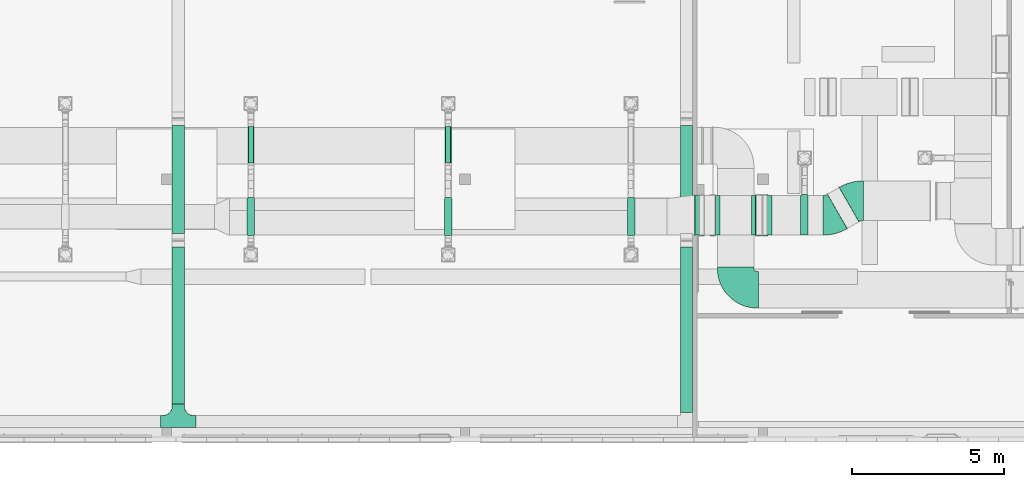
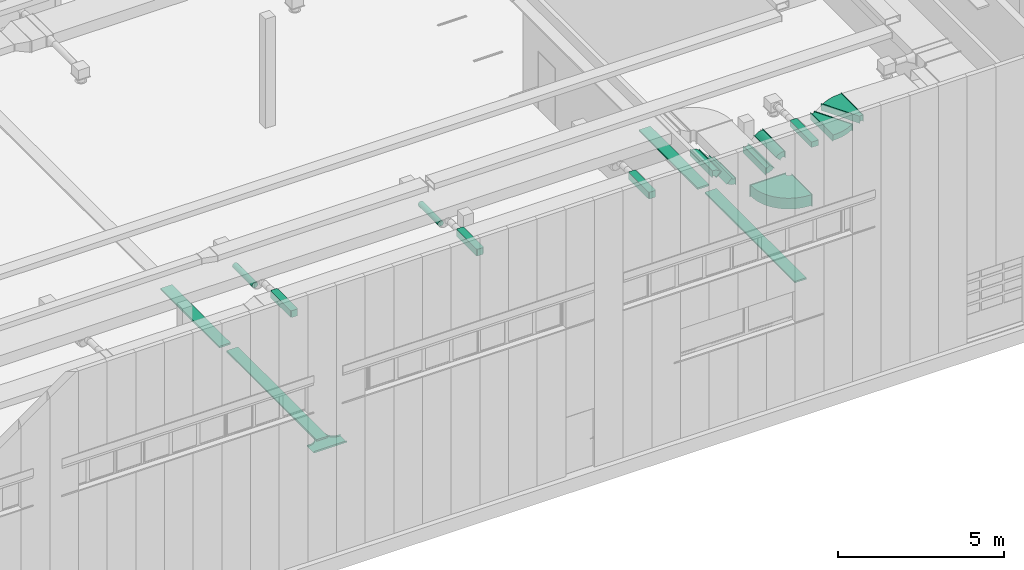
# One storey, part 255 of 302: 12 flow fittings, 6 flow segments.
"""IFC2X3 building model written with IfcOpenShell, lengths in metres."""

from ifc_helpers import new_model, entity, si_unit, converted_unit, derived_unit, direction, frame, frame_2d, origin, origin_2d_with_axis, place, context, subcontext, project, spatial, polyline, circle_curve, parameter, trimmed, segment, composite_curve, rectangle, circle, outline, extrude, faceted_brep, source, transform, mapped, material, material_list, type_object, type_shapes, element, save


model = new_model("IFC2X3")

# Units and contexts
model_context = context("Model", 3, precision=1e-05, world=origin(), true_north=direction((6.12303176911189e-17, 1.0)))
body_context = subcontext(model_context, "Body", "Model", "MODEL_VIEW")
ifc_project = project(units=[si_unit("LENGTHUNIT", "METRE"), si_unit("AREAUNIT", "SQUARE_METRE"), si_unit("VOLUMEUNIT", "CUBIC_METRE"), converted_unit("PLANEANGLEUNIT", "DEGREE", entity("IfcRatioMeasure", 0.0174532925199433), si_unit("PLANEANGLEUNIT", "RADIAN"), dimensions=[0, 0, 0, 0, 0, 0, 0]), si_unit("MASSUNIT", "GRAM", prefix="KILO"), derived_unit("MASSDENSITYUNIT", [(si_unit("MASSUNIT", "GRAM", prefix="KILO"), 1), (si_unit("LENGTHUNIT", "METRE"), -3)]), derived_unit("MOMENTOFINERTIAUNIT", [(si_unit("LENGTHUNIT", "METRE"), 4)]), si_unit("TIMEUNIT", "SECOND"), si_unit("FREQUENCYUNIT", "HERTZ"), si_unit("THERMODYNAMICTEMPERATUREUNIT", "DEGREE_CELSIUS"), derived_unit("THERMALTRANSMITTANCEUNIT", [(si_unit("MASSUNIT", "GRAM", prefix="KILO"), 1), (si_unit("THERMODYNAMICTEMPERATUREUNIT", "KELVIN"), -1), (si_unit("TIMEUNIT", "SECOND"), -3)]), derived_unit("VOLUMETRICFLOWRATEUNIT", [(si_unit("LENGTHUNIT", "METRE"), 3), (si_unit("TIMEUNIT", "SECOND"), -1)]), si_unit("ELECTRICCURRENTUNIT", "AMPERE"), si_unit("ELECTRICVOLTAGEUNIT", "VOLT"), si_unit("POWERUNIT", "WATT"), si_unit("FORCEUNIT", "NEWTON", prefix="KILO"), si_unit("ILLUMINANCEUNIT", "LUX"), si_unit("LUMINOUSFLUXUNIT", "LUMEN"), si_unit("LUMINOUSINTENSITYUNIT", "CANDELA"), derived_unit("USERDEFINED", [(si_unit("MASSUNIT", "GRAM", prefix="KILO"), -1), (si_unit("LENGTHUNIT", "METRE"), -2), (si_unit("TIMEUNIT", "SECOND"), 3), (si_unit("LUMINOUSFLUXUNIT", "LUMEN"), 1)]), derived_unit("LINEARVELOCITYUNIT", [(si_unit("LENGTHUNIT", "METRE"), 1), (si_unit("TIMEUNIT", "SECOND"), -1)]), si_unit("PRESSUREUNIT", "PASCAL"), derived_unit("USERDEFINED", [(si_unit("LENGTHUNIT", "METRE"), -2), (si_unit("MASSUNIT", "GRAM", prefix="KILO"), 1), (si_unit("TIMEUNIT", "SECOND"), -2)]), derived_unit("LINEARFORCEUNIT", [(si_unit("MASSUNIT", "GRAM", prefix="KILO"), 1), (si_unit("LENGTHUNIT", "METRE"), 1), (si_unit("TIMEUNIT", "SECOND"), -2), (si_unit("LENGTHUNIT", "METRE"), -1)]), derived_unit("PLANARFORCEUNIT", [(si_unit("MASSUNIT", "GRAM", prefix="KILO"), 1), (si_unit("LENGTHUNIT", "METRE"), 1), (si_unit("TIMEUNIT", "SECOND"), -2), (si_unit("LENGTHUNIT", "METRE"), -2)])], contexts=[model_context])

# Site, building, storey
site_placement = place(None, origin())
site = spatial("IfcSite", under=ifc_project, at=site_placement, Name="Default", CompositionType="ELEMENT")
building_placement = place(site_placement, origin())
building = spatial("IfcBuilding", under=site, at=building_placement, CompositionType="ELEMENT")
storey_placement = place(building_placement, frame((0.0, 0.0, -1.3)))
storey = spatial("IfcBuildingStorey", under=building, at=storey_placement, Name="00_EG", CompositionType="ELEMENT", Elevation=-1.3)

# Flow segments
cable_carrier_segment_type = type_object("IfcCableCarrierSegmentType", Name="Kabeltrasse mit Formteilen:Channel Cable Tray", PredefinedType="CABLETRAYSEGMENT")
flow_segment_1_placement = place(storey_placement, origin())
element("IfcFlowSegment", 1, at=flow_segment_1_placement, inside=storey, type_object=cable_carrier_segment_type, Name="Kabeltrasse mit Formteilen:Channel Cable Tray", ObjectType="Kabeltrasse mit Formteilen:Channel Cable Tray", context=body_context, shape_type="SweptSolid", body=[
    extrude(rectangle(XDim=5.43117419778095, YDim=0.399999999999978, at=frame_2d((-1.11022302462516e-15, -3.46389583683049e-14), x_axis=(1.0, 0.0))), frame((-220.085111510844, 18.513676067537, 4.82000000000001), z_axis=(0.0, 0.0, 1.0), x_axis=(0.0, -1.0, 0.0)), (0.0, 0.0, 1.0), 0.0600000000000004),
])
flow_segment_2_placement = place(storey_placement, origin())
element("IfcFlowSegment", 2, at=flow_segment_2_placement, inside=storey, type_object=cable_carrier_segment_type, Name="Kabeltrasse mit Formteilen:Channel Cable Tray", ObjectType="Kabeltrasse mit Formteilen:Channel Cable Tray", context=body_context, shape_type="SweptSolid", body=[
    extrude(rectangle(XDim=3.54586893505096, YDim=0.399999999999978, at=frame_2d((-2.1094237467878e-15, 1.73194791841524e-14), x_axis=(1.0, 0.0))), frame((-220.085111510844, 23.4441786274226, 4.69999999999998), z_axis=(0.0, 0.0, 1.0), x_axis=(0.0, 1.0, 0.0)), (0.0, 0.0, 1.0), 0.0599999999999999),
])
flow_segment_3_placement = place(storey_placement, origin())
element("IfcFlowSegment", 3, at=flow_segment_3_placement, inside=storey, type_object=cable_carrier_segment_type, Name="Kabeltrasse mit Formteilen:Channel Cable Tray", ObjectType="Kabeltrasse mit Formteilen:Channel Cable Tray", context=body_context, shape_type="SweptSolid", body=[
    extrude(rectangle(XDim=5.43117419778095, YDim=0.399999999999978, at=frame_2d((-1.11022302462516e-15, 0.0), x_axis=(1.0, 0.0))), frame((-236.772611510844, 18.513676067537, 4.82000000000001), z_axis=(0.0, 0.0, 1.0), x_axis=(0.0, -1.0, 0.0)), (0.0, 0.0, 1.0), 0.0600000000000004),
])
flow_segment_4_placement = place(storey_placement, origin())
element("IfcFlowSegment", 4, at=flow_segment_4_placement, inside=storey, type_object=cable_carrier_segment_type, Name="Kabeltrasse mit Formteilen:Channel Cable Tray", ObjectType="Kabeltrasse mit Formteilen:Channel Cable Tray", context=body_context, shape_type="SweptSolid", body=[
    extrude(rectangle(XDim=3.54586893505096, YDim=0.399999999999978, at=frame_2d((-2.1094237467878e-15, -1.73194791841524e-14), x_axis=(1.0, 0.0))), frame((-236.772611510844, 23.4441786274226, 4.69999999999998), z_axis=(0.0, 0.0, 1.0), x_axis=(0.0, 1.0, 0.0)), (0.0, 0.0, 1.0), 0.0599999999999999),
])

# Flow fittings
ifc_material = material(Name="<Unnamed>")
cable_carrier_fitting_type = type_object("IfcCableCarrierFittingType", Name="Kabeltrasse - T-Stück mit Radius:300 mm Radius", PredefinedType="NOTDEFINED", material=ifc_material)
shared_shape_1 = source(origin(), body_context, "Body", "Brep", [
    faceted_brep([(0.38422295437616, -0.220489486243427, 0.0299999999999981), (0.3319177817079, -0.248447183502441, 0.0299999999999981), (0.286071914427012, -0.286071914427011, 0.0299999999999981), (0.248447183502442, -0.331917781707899, 0.0299999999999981), (0.220489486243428, -0.384222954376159, 0.0299999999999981), (0.203273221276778, -0.440977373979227, 0.0299999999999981), (0.197460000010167, -0.500000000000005, 0.0299999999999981), (0.197460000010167, -0.580000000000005, 0.0299999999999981), (0.200000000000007, -0.580000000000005, 0.0299999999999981), (0.200000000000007, -0.500000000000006, 0.0299999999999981), (0.205764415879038, -0.441472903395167, 0.0299999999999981), (0.222836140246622, -0.385194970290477, 0.0299999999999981), (0.250559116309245, -0.333328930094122, 0.0299999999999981), (0.287867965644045, -0.287867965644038, 0.0299999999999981), (0.33332893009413, -0.250559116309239, 0.0299999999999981), (0.385194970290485, -0.222836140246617, 0.0299999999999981), (0.441472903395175, -0.205764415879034, 0.0299999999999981), (0.50000000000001, -0.200000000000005, 0.0299999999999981), (0.580000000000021, -0.200000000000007, 0.0299999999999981), (0.580000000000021, -0.197460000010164, 0.0299999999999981), (0.500000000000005, -0.197460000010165, 0.0299999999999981), (0.440977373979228, -0.203273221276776, 0.0299999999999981), (-0.49999999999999, -0.197460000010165, 0.0299999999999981), (-0.579999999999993, -0.197460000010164, 0.0299999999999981), (-0.579999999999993, -0.200000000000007, 0.0299999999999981), (-0.500000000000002, -0.200000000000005, 0.0299999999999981), (-0.441472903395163, -0.205764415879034, 0.0299999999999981), (-0.385194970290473, -0.222836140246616, 0.0299999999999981), (-0.333328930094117, -0.250559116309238, 0.0299999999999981), (-0.287867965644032, -0.287867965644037, 0.0299999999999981), (-0.250559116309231, -0.333328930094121, 0.0299999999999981), (-0.222836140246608, -0.385194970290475, 0.0299999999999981), (-0.205764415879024, -0.441472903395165, 0.0299999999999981), (-0.199999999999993, -0.500000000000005, 0.0299999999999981), (-0.199999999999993, -0.580000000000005, 0.0299999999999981), (-0.197460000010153, -0.580000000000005, 0.0299999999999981), (-0.197460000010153, -0.500000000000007, 0.0299999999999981), (-0.203273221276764, -0.440977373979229, 0.0299999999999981), (-0.220489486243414, -0.384222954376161, 0.0299999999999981), (-0.248447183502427, -0.331917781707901, 0.0299999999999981), (-0.286071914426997, -0.286071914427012, 0.0299999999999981), (-0.331917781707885, -0.248447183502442, 0.0299999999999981), (-0.384222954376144, -0.220489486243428, 0.0299999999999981), (-0.440977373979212, -0.203273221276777, 0.0299999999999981), (0.580000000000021, 0.199999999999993, 0.0299999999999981), (-0.579999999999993, 0.199999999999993, 0.0299999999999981), (-0.579999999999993, 0.197460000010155, 0.0299999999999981), (0.580000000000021, 0.197460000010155, 0.0299999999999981), (-0.199999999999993, -0.500000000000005, -0.0300000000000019), (-0.205764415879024, -0.441472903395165, -0.0300000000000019), (-0.222836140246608, -0.385194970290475, -0.0300000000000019), (-0.250559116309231, -0.333328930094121, -0.0300000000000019), (-0.287867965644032, -0.287867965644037, -0.0300000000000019), (-0.333328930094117, -0.250559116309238, -0.0300000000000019), (-0.385194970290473, -0.222836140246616, -0.0300000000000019), (-0.441472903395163, -0.205764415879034, -0.0300000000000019), (-0.499999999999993, -0.200000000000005, -0.0300000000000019), (-0.579999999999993, -0.200000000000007, -0.0300000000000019), (-0.579999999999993, 0.199999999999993, -0.0300000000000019), (0.580000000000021, 0.199999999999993, -0.0300000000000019), (0.580000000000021, -0.200000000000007, -0.0300000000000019), (0.500000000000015, -0.200000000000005, -0.0300000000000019), (0.441472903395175, -0.205764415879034, -0.0300000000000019), (0.385194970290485, -0.222836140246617, -0.0300000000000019), (0.33332893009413, -0.250559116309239, -0.0300000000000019), (0.287867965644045, -0.287867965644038, -0.0300000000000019), (0.250559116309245, -0.333328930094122, -0.0300000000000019), (0.222836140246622, -0.385194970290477, -0.0300000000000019), (0.205764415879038, -0.441472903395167, -0.0300000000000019), (0.200000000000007, -0.500000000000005, -0.0300000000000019), (0.200000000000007, -0.580000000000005, -0.0300000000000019), (-0.199999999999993, -0.580000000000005, -0.0300000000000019), (-0.199999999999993, -0.500000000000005, -0.0274600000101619), (0.197460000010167, -0.580000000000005, -0.0274600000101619), (-0.197460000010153, -0.580000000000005, -0.0274600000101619), (-0.197460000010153, -0.500000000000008, -0.0274600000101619), (-0.203273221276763, -0.440977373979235, -0.0274600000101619), (-0.220489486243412, -0.384222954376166, -0.0274600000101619), (-0.248447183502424, -0.331917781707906, -0.0274600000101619), (-0.286071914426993, -0.286071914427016, -0.0274600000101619), (-0.33191778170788, -0.248447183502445, -0.0274600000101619), (-0.384222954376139, -0.22048948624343, -0.0274600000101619), (-0.440977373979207, -0.203273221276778, -0.0274600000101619), (-0.499999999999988, -0.197460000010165, -0.0274600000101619), (-0.579999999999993, -0.197460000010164, -0.0274600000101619), (0.580000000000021, -0.197460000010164, -0.0274600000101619), (0.500000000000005, -0.197460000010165, -0.0274600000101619), (-0.579999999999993, 0.197460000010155, -0.0274600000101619), (-0.500000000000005, -0.200000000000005, -0.0274600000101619), (0.500000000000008, -0.200000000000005, -0.0274600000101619), (0.200000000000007, -0.500000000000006, -0.0274600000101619), (0.580000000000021, 0.197460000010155, -0.0274600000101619), (0.440977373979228, -0.203273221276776, -0.0274600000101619), (0.38422295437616, -0.220489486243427, -0.0274600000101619), (0.3319177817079, -0.248447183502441, -0.0274600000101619), (0.286071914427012, -0.286071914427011, -0.0274600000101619), (0.248447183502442, -0.331917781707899, -0.0274600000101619), (0.220489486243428, -0.384222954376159, -0.0274600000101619), (0.203273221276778, -0.440977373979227, -0.0274600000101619), (0.197460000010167, -0.500000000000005, -0.0274600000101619)], [[[0, 1, 2, 3, 4, 5, 6, 7, 8, 9, 10, 11, 12, 13, 14, 15, 16, 17, 18, 19, 20, 21]], [[22, 23, 24, 25, 26, 27, 28, 29, 30, 31, 32, 33, 34, 35, 36, 37, 38, 39, 40, 41, 42, 43]], [[44, 45, 46, 47]], [[48, 49, 50, 51, 52, 53, 54, 55, 56, 57, 58, 59, 60, 61, 62, 63, 64, 65, 66, 67, 68, 69, 70, 71]], [[34, 33, 72, 48, 71]], [[35, 34, 71, 70, 8, 7, 73, 74]], [[36, 35, 74, 75]], [[37, 36, 75, 76]], [[76, 77, 38, 37]], [[78, 39, 38, 77]], [[39, 78, 79, 40]], [[41, 80, 81, 42]], [[42, 81, 82, 43]], [[43, 82, 83, 22]], [[79, 80, 41, 40]], [[23, 22, 83, 84]], [[20, 19, 85, 86]], [[46, 45, 58, 57, 24, 23, 84, 87]], [[25, 24, 57, 56, 88]], [[18, 17, 89, 61, 60]], [[26, 25, 88, 56, 55]], [[27, 54, 53, 28]], [[26, 55, 54, 27]], [[28, 53, 52, 29]], [[31, 30, 51, 50]], [[72, 33, 32, 49, 48]], [[49, 32, 31, 50]], [[51, 30, 29, 52]], [[10, 9, 90, 69, 68]], [[11, 10, 68, 67]], [[12, 11, 67, 66]], [[13, 12, 66, 65]], [[14, 13, 65, 64]], [[16, 15, 63, 62]], [[14, 64, 63, 15]], [[16, 62, 61, 89, 17]], [[19, 18, 60, 59, 44, 47, 91, 85]], [[21, 20, 86, 92]], [[92, 93, 0, 21]], [[94, 1, 0, 93]], [[95, 2, 1, 94]], [[3, 96, 97, 4]], [[4, 97, 98, 5]], [[5, 98, 99, 6]], [[95, 96, 3, 2]], [[7, 6, 99, 73]], [[9, 8, 70, 69, 90]], [[45, 44, 59, 58]], [[47, 46, 87, 91]], [[87, 84, 83, 82, 81, 80, 79, 78, 77, 76, 75, 74, 73, 99, 98, 97, 96, 95, 94, 93, 92, 86, 85, 91]]]),
])
type_shapes(cable_carrier_fitting_type, [shared_shape_1])
flow_fitting_1_placement = place(storey_placement, frame((-236.772611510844, 15.4980889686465, 4.85), z_axis=(0.0, 0.0, 1.0), x_axis=(-1.0, 0.0, 0.0)))
element("IfcFlowFitting", 5, at=flow_fitting_1_placement, inside=storey, type_object=cable_carrier_fitting_type, material=ifc_material, Name="Kabeltrasse - T-Stück mit Radius:300 mm Radius", ObjectType="Kabeltrasse - T-Stück mit Radius:300 mm Radius", context=body_context, shape_type="MappedRepresentation", body=[
    mapped(shared_shape_1, transform((0.0, 0.0, 0.0), scale=1.0)),
])
ifc_material_list_1 = material_list([ifc_material, ifc_material, ifc_material, ifc_material, ifc_material])
ifc_material_list_2 = material_list([ifc_material, ifc_material, ifc_material, ifc_material, ifc_material])
duct_fitting_type_1 = type_object("IfcDuctFittingType", Name="Bogen rechteck BS:Standard", PredefinedType="NOTDEFINED", material=ifc_material_list_2)
shared_shape_2 = source(origin(), body_context, "Body", "SweptSolid", [
    extrude(rectangle(XDim=0.0549999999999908, YDim=0.2, at=frame_2d((-2.94902990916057e-17, 0.0), x_axis=(1.0, 0.0))), frame((0.0780240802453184, 0.0780240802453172, -0.65), z_axis=(0.0, 0.0, 1.0), x_axis=(0.707106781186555, 0.70710678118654, 0.0)), (0.0, 0.0, 1.0), 1.3),
    extrude(rectangle(XDim=0.199999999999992, YDim=0.0549999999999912, at=frame_2d((1.97758476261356e-15, 1.4883927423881e-15), x_axis=(1.0, 0.0))), frame((-0.110342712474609, 0.0, -0.65), z_axis=(0.0, 0.0, 1.0), x_axis=(0.0, -1.0, 0.0)), (0.0, 0.0, 1.0), 1.3),
    extrude(outline(composite_curve([segment(polyline([(-0.129289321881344, -0.0707106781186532), (0.0707106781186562, -0.0707106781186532)]), True, "CONTINUOUS"), segment(trimmed(circle_curve(frame_2d((0.170710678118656, -0.0707106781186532), x_axis=(-0.707106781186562, 0.707106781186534)), 0.1), [parameter(0.0)], [parameter(44.9999999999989)], True, "PARAMETER"), False, "CONTINUOUS"), segment(polyline([(0.1, 0.0), (-0.0414213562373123, 0.141421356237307)]), True, "CONTINUOUS"), segment(trimmed(circle_curve(frame_2d((0.170710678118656, -0.0707106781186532), x_axis=(-0.707106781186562, 0.707106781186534)), 0.3), [parameter(0.0)], [parameter(44.9999999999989)], True, "PARAMETER"), True, "CONTINUOUS")], self_intersect=False)), frame((-0.0121320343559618, 0.029289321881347, -0.65), z_axis=(0.0, 0.0, 1.0), x_axis=(-0.707106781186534, 0.707106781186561, 0.0)), (0.0, 0.0, 1.0), 1.3),
    extrude(rectangle(XDim=0.00500000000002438, YDim=0.26, at=frame_2d((1.94570921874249e-15, 0.0), x_axis=(1.0, 0.0))), frame((-0.135342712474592, 0.0, -0.68)), (0.0, 0.0, 1.0), 1.36),
    extrude(rectangle(XDim=0.00500000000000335, YDim=0.26, at=frame_2d((4.33680868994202e-18, -4.16333634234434e-17), x_axis=(1.0, 0.0))), frame((0.0957017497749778, 0.0957017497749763, -0.68), z_axis=(0.0, 0.0, 1.0), x_axis=(0.707106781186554, 0.707106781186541, 0.0)), (0.0, 0.0, 1.0), 1.36),
])
type_shapes(duct_fitting_type_1, [shared_shape_2])
flow_fitting_2_placement = place(storey_placement, frame((-219.681985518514, 22.2723454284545, 5.15), z_axis=(0.0, -1.0, 0.0), x_axis=(-0.707106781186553, 0.0, 0.707106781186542)))
element("IfcFlowFitting", 6, at=flow_fitting_2_placement, inside=storey, type_object=duct_fitting_type_1, material=ifc_material_list_1, Name="Bogen rechteck BS:Standard", ObjectType="Bogen rechteck BS:Standard", context=body_context, shape_type="MappedRepresentation", body=[
    mapped(shared_shape_2, transform((0.0, 0.0, 0.0), scale=1.0)),
])
for number, where, z_axis, x_axis, name in (
    (7, (-219.126985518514, 22.2723454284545, 4.59500000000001), (0.0, -1.0, 0.0), (0.707106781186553, 0.0, -0.707106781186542), "Bogen rechteck BS:Standard"),
    (8, (-217.818362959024, 22.2723454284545, 4.595), (0.0, -1.0, 0.0), (1.0, 0.0, 0.0), "Bogen rechteck BS:Standard"),
    (9, (-217.413362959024, 22.2723454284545, 5.0), (0.0, 1.0, 0.0), (0.707106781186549, 0.0, 0.707106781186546), "Bogen rechteck BS:Standard"),
):
    element("IfcFlowFitting", number, at=place(storey_placement, frame(where, z_axis=z_axis, x_axis=x_axis)), inside=storey, type_object=duct_fitting_type_1, material=ifc_material, Name=name, ObjectType="Bogen rechteck BS:Standard", context=body_context, shape_type="MappedRepresentation", body=[
        mapped(shared_shape_2, transform((0.0, 0.0, 0.0), scale=1.0)),
    ])
ifc_material_list_3 = material_list([ifc_material, ifc_material, ifc_material, ifc_material, ifc_material])
ifc_material_list_4 = material_list([ifc_material, ifc_material, ifc_material, ifc_material, ifc_material])
duct_fitting_type_2 = type_object("IfcDuctFittingType", Name="Bogen rechteck BS:Standard", PredefinedType="NOTDEFINED", material=ifc_material_list_4)
shared_shape_3 = source(origin(), body_context, "Body", "SweptSolid", [
    extrude(rectangle(XDim=0.0549999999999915, YDim=1.3, at=frame_2d((5.03069808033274e-17, 0.0), x_axis=(1.0, 0.0))), frame((0.197073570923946, 0.112908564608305, -0.1), z_axis=(0.0, 0.0, 1.0), x_axis=(0.867682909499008, 0.497118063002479, 0.0)), (0.0, 0.0, 1.0), 0.2),
    extrude(rectangle(XDim=1.29999999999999, YDim=0.0549999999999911, at=frame_2d((3.60822483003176e-15, 9.6936347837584e-15), x_axis=(1.0, 0.0))), frame((-0.227126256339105, 0.0, -0.1), z_axis=(0.0, 0.0, 1.0), x_axis=(0.0, -1.0, 0.0)), (0.0, 0.0, 1.0), 0.2),
    extrude(outline(composite_curve([segment(polyline([(-0.699618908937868, -0.186419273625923), (0.600381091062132, -0.186419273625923)]), True, "CONTINUOUS"), segment(trimmed(circle_curve(frame_2d((0.700381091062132, -0.186419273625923), x_axis=(-0.867682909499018, 0.497118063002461)), 0.1), [parameter(0.0)], [parameter(29.8095150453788)], True, "PARAMETER"), False, "CONTINUOUS"), segment(polyline([(0.61361280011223, -0.136707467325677), (-0.514374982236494, 0.509546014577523)]), True, "CONTINUOUS"), segment(trimmed(circle_curve(frame_2d((0.700381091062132, -0.186419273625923), x_axis=(-0.867682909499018, 0.497118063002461)), 1.4), [parameter(0.0)], [parameter(29.8095150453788)], True, "PARAMETER"), True, "CONTINUOUS")], self_intersect=False)), frame((-0.0132069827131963, 0.0496189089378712, -0.1), z_axis=(0.0, 0.0, 1.0), x_axis=(-0.497118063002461, 0.867682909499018, 0.0)), (0.0, 0.0, 1.0), 0.2),
    extrude(rectangle(XDim=0.00500000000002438, YDim=1.36, at=frame_2d((1.013490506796e-14, 0.0), x_axis=(1.0, 0.0))), frame((-0.252126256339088, 0.0, -0.13)), (0.0, 0.0, 1.0), 0.26),
    extrude(rectangle(XDim=0.00500000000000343, YDim=1.36, at=frame_2d((1.69135538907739e-17, 0.0), x_axis=(1.0, 0.0))), frame((0.218765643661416, 0.125336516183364, -0.13), z_axis=(0.0, 0.0, 1.0), x_axis=(0.867682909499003, 0.497118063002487, 0.0)), (0.0, 0.0, 1.0), 0.26),
])
type_shapes(duct_fitting_type_2, [shared_shape_3])
flow_fitting_3_placement = place(storey_placement, frame((-214.531873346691, 22.7424213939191, 5.0), z_axis=(0.0, 0.0, 1.0), x_axis=(-1.0, 0.0, 0.0)))
element("IfcFlowFitting", 10, at=flow_fitting_3_placement, inside=storey, type_object=duct_fitting_type_2, material=ifc_material_list_3, Name="Bogen rechteck BS:Standard", ObjectType="Bogen rechteck BS:Standard", context=body_context, shape_type="MappedRepresentation", body=[
    mapped(shared_shape_3, transform((0.0, 0.0, 0.0), scale=1.0)),
])
flow_fitting_4_placement = place(storey_placement, frame((-215.352356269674, 22.2723454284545, 5.0)))
element("IfcFlowFitting", 11, at=flow_fitting_4_placement, inside=storey, type_object=duct_fitting_type_2, material=ifc_material, Name="Bogen rechteck BS:Standard", ObjectType="Bogen rechteck BS:Standard", context=body_context, shape_type="MappedRepresentation", body=[
    mapped(shared_shape_3, transform((0.0, 0.0, 0.0), scale=1.0)),
])

# Flow segments
duct_segment_type = type_object("IfcDuctSegmentType", Name="Rund:STR_Segment_RND_GS_EA", PredefinedType="NOTDEFINED")
flow_segment_5_placement = place(storey_placement, origin())
element("IfcFlowSegment", 12, at=flow_segment_5_placement, inside=storey, type_object=duct_segment_type, Name="Rund:STR_Segment_RND_GS_EA", ObjectType="Rund:STR_Segment_RND_GS_EA", context=body_context, shape_type="SweptSolid", body=[
    extrude(circle(Radius=0.1, at=origin_2d_with_axis()), frame((-227.909394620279, 23.984658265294, 4.71999999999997), z_axis=(0.0, 1.0, 0.0), x_axis=(-1.0, 0.0, 0.0)), (0.0, 0.0, 1.0), 1.20262234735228),
])
flow_segment_6_placement = place(storey_placement, origin())
element("IfcFlowSegment", 13, at=flow_segment_6_placement, inside=storey, type_object=duct_segment_type, Name="Rund:STR_Segment_RND_GS_EA", ObjectType="Rund:STR_Segment_RND_GS_EA", context=body_context, shape_type="SweptSolid", body=[
    extrude(circle(Radius=0.1, at=origin_2d_with_axis()), frame((-234.389904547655, 23.984658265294, 4.71999999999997), z_axis=(0.0, 1.0, 0.0), x_axis=(-1.0, 0.0, 0.0)), (0.0, 0.0, 1.0), 1.20262234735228),
])

# Flow fittings
duct_fitting_type_3 = type_object("IfcDuctFittingType", Name="STR_RCT_Tee:STR_Tee_RCT_GS_RA", PredefinedType="NOTDEFINED", material=ifc_material)
shared_shape_4 = source(origin(), body_context, "Body", "SweptSolid", [
    extrude(outline(polyline([(-0.125, 0.318750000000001), (-0.125, -0.98125), (0.125000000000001, -0.98125), (0.125000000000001, 0.318750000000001), (0.0999999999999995, 0.318750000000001), (0.0999999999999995, 0.343749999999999), (-0.100000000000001, 0.343749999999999), (-0.100000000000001, 0.318750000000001), (-0.125, 0.318750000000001)])), frame((0.0, -0.331250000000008, -0.100000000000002), z_axis=(0.0, 0.0, -1.0), x_axis=(1.0, 0.0, 0.0)), (0.0, 0.0, -1.0), 0.2),
])
type_shapes(duct_fitting_type_3, [shared_shape_4])
flow_fitting_5_placement = place(storey_placement, frame((-216.214864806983, 22.2723454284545, 5.0), z_axis=(0.0, 0.0, 1.0), x_axis=(-1.0, 0.0, 0.0)))
element("IfcFlowFitting", 14, at=flow_fitting_5_placement, inside=storey, type_object=duct_fitting_type_3, material=ifc_material, Name="STR_RCT_Tee:STR_Tee_RCT_GS_RA", ObjectType="STR_RCT_Tee:STR_Tee_RCT_GS_RA", context=body_context, shape_type="MappedRepresentation", body=[
    mapped(shared_shape_4, transform((0.0, 0.0, 0.0), scale=1.0)),
])
duct_fitting_type_4 = type_object("IfcDuctFittingType", Name="STR_RCT_Cross:STR_Cross_RCT_GS_RA", PredefinedType="NOTDEFINED", material=ifc_material)
shared_shape_5 = source(origin(), body_context, "Body", "SweptSolid", [
    extrude(outline(polyline([(-0.624999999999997, 0.0999999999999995), (-0.624999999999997, -0.1), (-0.600000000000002, -0.1), (-0.600000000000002, -0.124999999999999), (0.599999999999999, -0.124999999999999), (0.599999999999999, -0.1), (0.625000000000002, -0.1), (0.625000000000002, 0.0999999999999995), (0.599999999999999, 0.0999999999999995), (0.599999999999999, 0.125000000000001), (-0.600000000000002, 0.125000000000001), (-0.600000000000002, 0.0999999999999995), (-0.624999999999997, 0.0999999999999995)])), frame((0.0, 0.0, -0.125000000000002), z_axis=(0.0, 0.0, -1.0), x_axis=(0.0, 1.0, 0.0)), (0.0, 0.0, -1.0), 0.25),
])
type_shapes(duct_fitting_type_4, [shared_shape_5])
for number, where in (
    (15, (-221.905155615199, 22.2218155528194, 5.125)),
    (16, (-227.909394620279, 22.2218155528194, 5.125)),
    (17, (-234.389904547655, 22.2218155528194, 5.125)),
):
    element("IfcFlowFitting", number, at=place(storey_placement, frame(where)), inside=storey, type_object=duct_fitting_type_4, material=ifc_material, Name="STR_RCT_Cross:STR_Cross_RCT_GS_RA", ObjectType="STR_RCT_Cross:STR_Cross_RCT_GS_RA", context=body_context, shape_type="MappedRepresentation", body=[
        mapped(shared_shape_5, transform((0.0, 0.0, 0.0), scale=1.0)),
    ])
ifc_material_list_5 = material_list([ifc_material, ifc_material, ifc_material, ifc_material, ifc_material])
ifc_material_list_6 = material_list([ifc_material, ifc_material, ifc_material, ifc_material, ifc_material])
duct_fitting_type_5 = type_object("IfcDuctFittingType", Name="Bogen rechteck BS:Standard", PredefinedType="NOTDEFINED", material=ifc_material_list_6)
shared_shape_6 = source(origin(), body_context, "Body", "SweptSolid", [
    extrude(rectangle(XDim=0.0549999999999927, YDim=1.2, at=frame_2d((0.0, -5.55111512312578e-17), x_axis=(1.0, 0.0))), frame((2.1105240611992e-05, 0.72747969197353, -0.2), z_axis=(0.0, 0.0, 1.0), x_axis=(2.90114498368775e-05, 1.0, 0.0)), (0.0, 0.0, 1.0), 0.4),
    extrude(rectangle(XDim=1.19999999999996, YDim=0.054999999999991, at=frame_2d((1.11577413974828e-14, 8.93382590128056e-15), x_axis=(1.0, 0.0))), frame((-0.727479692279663, 0.0, -0.2), z_axis=(0.0, 0.0, 1.0), x_axis=(0.0, -1.0, 0.0)), (0.0, 0.0, 1.0), 0.4),
    extrude(outline(composite_curve([segment(polyline([(-0.949989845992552, -0.349999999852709), (0.250010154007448, -0.349999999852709)]), True, "CONTINUOUS"), segment(trimmed(circle_curve(frame_2d((0.350010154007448, -0.349999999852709), x_axis=(-2.90114498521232e-05, 1.0)), 0.0999999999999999), [parameter(0.0)], [parameter(89.9983377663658)], True, "PARAMETER"), False, "CONTINUOUS"), segment(polyline([(0.350007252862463, -0.249999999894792), (0.349972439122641, 0.94999999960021)]), True, "CONTINUOUS"), segment(trimmed(circle_curve(frame_2d((0.350010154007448, -0.349999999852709), x_axis=(-2.90114498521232e-05, 1.0)), 1.3), [parameter(0.0)], [parameter(89.9983377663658)], True, "PARAMETER"), True, "CONTINUOUS")], self_intersect=False)), frame((-0.349979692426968, 0.349989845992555, -0.2), z_axis=(0.0, 0.0, 1.0), x_axis=(-1.0, 2.90114498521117e-05, 0.0)), (0.0, 0.0, 1.0), 0.4),
    extrude(rectangle(XDim=0.00500000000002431, YDim=1.26, at=frame_2d((9.40740541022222e-15, 0.0), x_axis=(1.0, 0.0))), frame((-0.752479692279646, 0.0, -0.23)), (0.0, 0.0, 1.0), 0.46),
    extrude(rectangle(XDim=0.00500000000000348, YDim=1.26, at=frame_2d((6.76542155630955e-17, 5.55111512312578e-17), x_axis=(1.0, 0.0))), frame((2.183052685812e-05, 0.752479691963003, -0.23), z_axis=(0.0, 0.0, 1.0), x_axis=(2.90114498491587e-05, 1.0, 0.0)), (0.0, 0.0, 1.0), 0.46),
])
type_shapes(duct_fitting_type_5, [shared_shape_6])
flow_fitting_6_placement = place(storey_placement, frame((-218.472674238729, 19.8232445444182, 4.90999999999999), z_axis=(0.0, 0.0, 1.0), x_axis=(0.0, -1.0, 0.0)))
element("IfcFlowFitting", 18, at=flow_fitting_6_placement, inside=storey, type_object=duct_fitting_type_5, material=ifc_material_list_5, Name="Bogen rechteck BS:Standard", ObjectType="Bogen rechteck BS:Standard", context=body_context, shape_type="MappedRepresentation", body=[
    mapped(shared_shape_6, transform((0.0, 0.0, 0.0), scale=1.0)),
])

save(model, "model.ifc")
